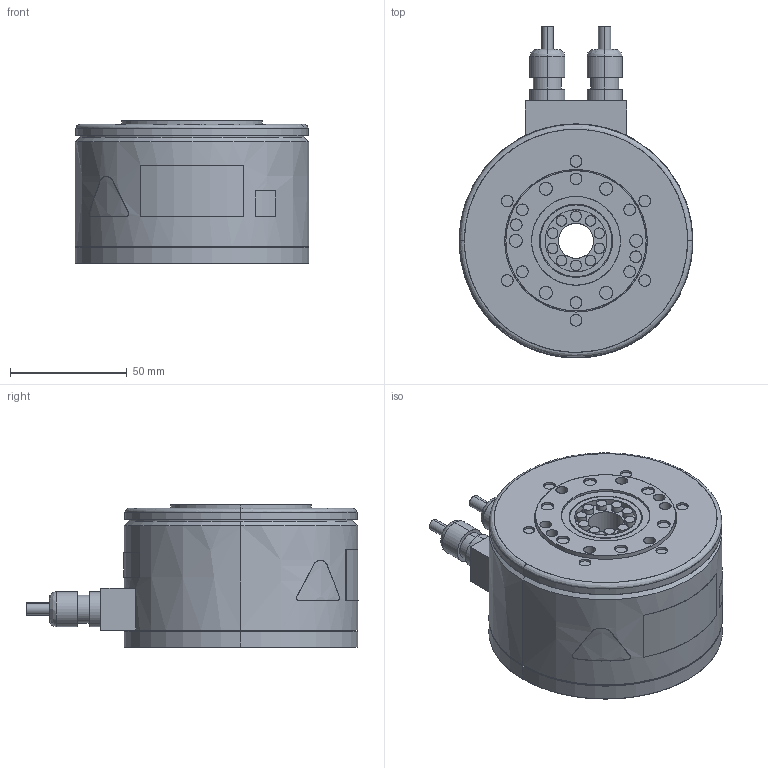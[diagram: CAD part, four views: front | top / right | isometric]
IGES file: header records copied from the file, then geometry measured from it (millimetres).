
Start section: SolidWorks IGES file using analytic representation for surfaces
Bounding box: 100 x 142.1 x 61 mm (x, y, z)
Surface area: 45485.9 mm2 (no closed solid volume)
Topology: 0 solids, 0 shells, 227 faces, 5436 edges, 5436 vertices
Faces by surface type: revolution 135, bspline 92
